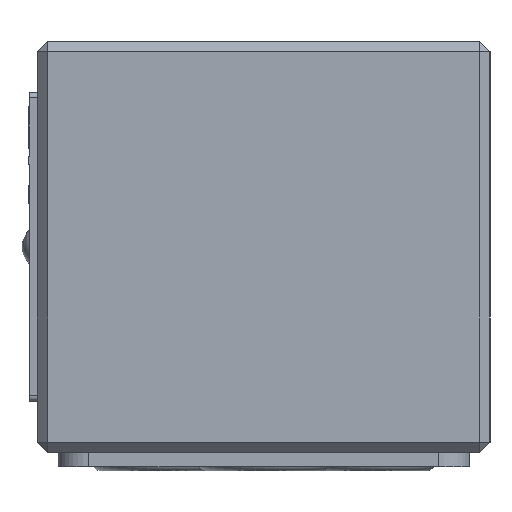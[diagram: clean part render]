
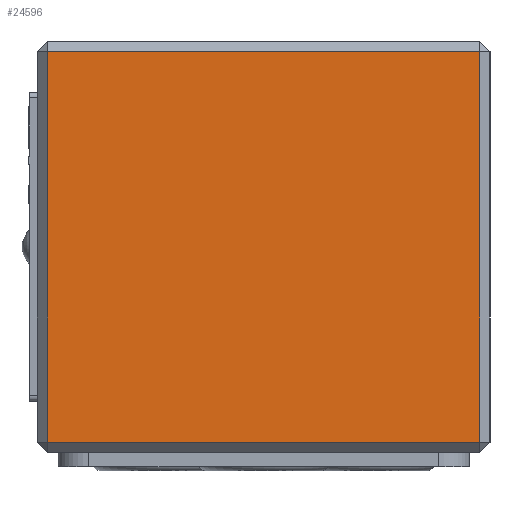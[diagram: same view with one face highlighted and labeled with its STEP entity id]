
A CAD part, left-side view. The second image highlights one B-rep face of the part: STEP entity #24596.
In plain terms, the highlighted planar face has unit normal (-1, 0, 0).
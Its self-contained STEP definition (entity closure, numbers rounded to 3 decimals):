
#1304=LINE('',#33938,#3989);
#1305=LINE('',#33941,#3990);
#1306=LINE('',#33943,#3991);
#1307=LINE('',#33945,#3992);
#3989=VECTOR('',#29001,1.);
#3990=VECTOR('',#29002,1.);
#3991=VECTOR('',#29003,1.);
#3992=VECTOR('',#29004,1.);
#6789=PLANE('',#27859);
#7719=FACE_OUTER_BOUND('',#8744,.T.);
#8744=EDGE_LOOP('',(#9944,#9945,#9946,#9947));
#9944=ORIENTED_EDGE('',*,*,#15802,.T.);
#9945=ORIENTED_EDGE('',*,*,#15803,.T.);
#9946=ORIENTED_EDGE('',*,*,#15804,.T.);
#9947=ORIENTED_EDGE('',*,*,#15805,.T.);
#15802=EDGE_CURVE('',#25878,#25879,#1304,.T.);
#15803=EDGE_CURVE('',#25879,#25880,#1305,.T.);
#15804=EDGE_CURVE('',#25880,#25881,#1306,.T.);
#15805=EDGE_CURVE('',#25881,#25878,#1307,.T.);
#24596=ADVANCED_FACE('',(#7719),#6789,.T.);
#25878=VERTEX_POINT('',#33939);
#25879=VERTEX_POINT('',#33940);
#25880=VERTEX_POINT('',#33942);
#25881=VERTEX_POINT('',#33944);
#27859=AXIS2_PLACEMENT_3D('',#33946,#29005,#29006);
#29001=DIRECTION('',(0.,0.,-1.));
#29002=DIRECTION('',(0.,-1.,0.));
#29003=DIRECTION('',(0.,0.,1.));
#29004=DIRECTION('',(0.,1.,0.));
#29005=DIRECTION('',(-1.,0.,0.));
#29006=DIRECTION('',(0.,0.,1.));
#33938=CARTESIAN_POINT('',(-18.327,247.173,243.216));
#33939=CARTESIAN_POINT('',(-18.327,247.173,282.216));
#33940=CARTESIAN_POINT('',(-18.327,247.173,244.216));
#33941=CARTESIAN_POINT('',(-18.327,204.173,244.216));
#33942=CARTESIAN_POINT('',(-18.327,205.173,244.216));
#33943=CARTESIAN_POINT('',(-18.327,205.173,243.216));
#33944=CARTESIAN_POINT('',(-18.327,205.173,282.216));
#33945=CARTESIAN_POINT('',(-18.327,248.173,282.216));
#33946=CARTESIAN_POINT('',(-18.327,248.173,243.216));
